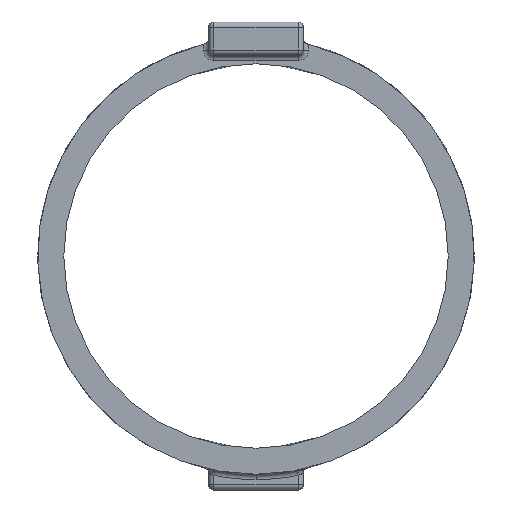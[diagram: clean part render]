
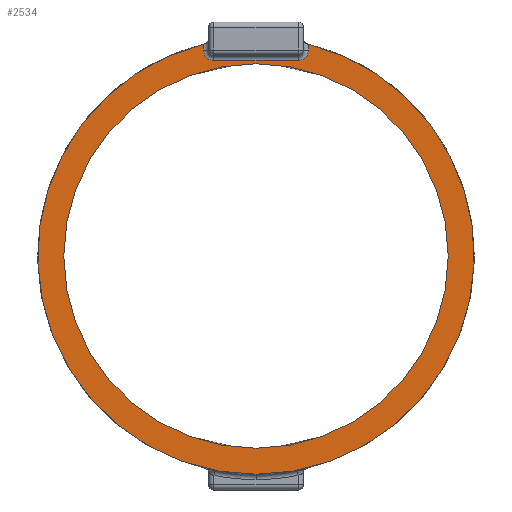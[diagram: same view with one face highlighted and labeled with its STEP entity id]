
A CAD part, front view. The second image highlights one B-rep face of the part: STEP entity #2534.
In plain terms, the highlighted planar face has unit normal (0, -1, 0).
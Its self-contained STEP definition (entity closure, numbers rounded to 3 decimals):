
#21 = DIRECTION ( 'NONE',  ( 0., 0., 1. ) ) ;
#32 = EDGE_CURVE ( 'NONE', #811, #158, #808, .T. ) ;
#59 = AXIS2_PLACEMENT_3D ( 'NONE', #739, #2432, #1389 ) ;
#98 = ORIENTED_EDGE ( 'NONE', *, *, #306, .T. ) ;
#126 = VERTEX_POINT ( 'NONE', #2557 ) ;
#158 = VERTEX_POINT ( 'NONE', #701 ) ;
#172 = VECTOR ( 'NONE', #414, 1000. ) ;
#232 = AXIS2_PLACEMENT_3D ( 'NONE', #462, #1285, #21 ) ;
#269 = CARTESIAN_POINT ( 'NONE',  ( 0., 0., 0. ) ) ;
#274 = VERTEX_POINT ( 'NONE', #1399 ) ;
#283 = FACE_BOUND ( 'NONE', #1904, .T. ) ;
#295 = DIRECTION ( 'NONE',  ( 0., -1., 0. ) ) ;
#306 = EDGE_CURVE ( 'NONE', #1874, #1296, #1870, .T. ) ;
#309 = FACE_OUTER_BOUND ( 'NONE', #512, .T. ) ;
#317 = CARTESIAN_POINT ( 'NONE',  ( 0., 0., 37.163 ) ) ;
#350 = VERTEX_POINT ( 'NONE', #623 ) ;
#358 = EDGE_CURVE ( 'NONE', #685, #1296, #474, .T. ) ;
#414 = DIRECTION ( 'NONE',  ( 0., 0., 1. ) ) ;
#450 = DIRECTION ( 'NONE',  ( 0., 0., -1. ) ) ;
#462 = CARTESIAN_POINT ( 'NONE',  ( 8., 0., 39.163 ) ) ;
#474 = CIRCLE ( 'NONE', #232, 2. ) ;
#483 = DIRECTION ( 'NONE',  ( 0., 0., 1. ) ) ;
#496 = CARTESIAN_POINT ( 'NONE',  ( 8., 0., 37.163 ) ) ;
#504 = ORIENTED_EDGE ( 'NONE', *, *, #953, .T. ) ;
#512 = EDGE_LOOP ( 'NONE', ( #1734, #98, #1604, #504, #1111, #540, #616 ) ) ;
#540 = ORIENTED_EDGE ( 'NONE', *, *, #32, .T. ) ;
#605 = DIRECTION ( 'NONE',  ( 0., 0., 1. ) ) ;
#616 = ORIENTED_EDGE ( 'NONE', *, *, #879, .F. ) ;
#623 = CARTESIAN_POINT ( 'NONE',  ( -8., 0., 37.163 ) ) ;
#685 = VERTEX_POINT ( 'NONE', #496 ) ;
#695 = ORIENTED_EDGE ( 'NONE', *, *, #2594, .F. ) ;
#701 = CARTESIAN_POINT ( 'NONE',  ( -10., 0., 40.277 ) ) ;
#705 = CARTESIAN_POINT ( 'NONE',  ( 0., 0., 36.55 ) ) ;
#739 = CARTESIAN_POINT ( 'NONE',  ( 0., 0., 0. ) ) ;
#780 = EDGE_CURVE ( 'NONE', #1950, #274, #2606, .T. ) ;
#808 = LINE ( 'NONE', #2283, #172 ) ;
#809 = DIRECTION ( 'NONE',  ( 0., 1., 0. ) ) ;
#811 = VERTEX_POINT ( 'NONE', #1577 ) ;
#879 = EDGE_CURVE ( 'NONE', #126, #158, #2044, .T. ) ;
#924 = PLANE ( 'NONE',  #2069 ) ;
#953 = EDGE_CURVE ( 'NONE', #685, #350, #1344, .T. ) ;
#1038 = CARTESIAN_POINT ( 'NONE',  ( 0., 0., 0. ) ) ;
#1089 = CIRCLE ( 'NONE', #1992, 41.5 ) ;
#1111 = ORIENTED_EDGE ( 'NONE', *, *, #2665, .F. ) ;
#1285 = DIRECTION ( 'NONE',  ( 0., -1., 0. ) ) ;
#1296 = VERTEX_POINT ( 'NONE', #2293 ) ;
#1297 = DIRECTION ( 'NONE',  ( 0., 1., 0. ) ) ;
#1298 = CARTESIAN_POINT ( 'NONE',  ( 10., 0., 0. ) ) ;
#1335 = CIRCLE ( 'NONE', #2373, 2. ) ;
#1344 = LINE ( 'NONE', #317, #2265 ) ;
#1348 = CARTESIAN_POINT ( 'NONE',  ( 0., 0., 0. ) ) ;
#1389 = DIRECTION ( 'NONE',  ( 0., 0., 1. ) ) ;
#1396 = VECTOR ( 'NONE', #450, 1000. ) ;
#1399 = CARTESIAN_POINT ( 'NONE',  ( 0., 0., -36.55 ) ) ;
#1435 = DIRECTION ( 'NONE',  ( 0., -1., 0. ) ) ;
#1508 = DIRECTION ( 'NONE',  ( 0., 0., 1. ) ) ;
#1517 = AXIS2_PLACEMENT_3D ( 'NONE', #1348, #2335, #483 ) ;
#1577 = CARTESIAN_POINT ( 'NONE',  ( -10., 0., 39.163 ) ) ;
#1598 = AXIS2_PLACEMENT_3D ( 'NONE', #2146, #295, #1905 ) ;
#1604 = ORIENTED_EDGE ( 'NONE', *, *, #358, .F. ) ;
#1734 = ORIENTED_EDGE ( 'NONE', *, *, #2027, .F. ) ;
#1792 = ORIENTED_EDGE ( 'NONE', *, *, #780, .F. ) ;
#1870 = LINE ( 'NONE', #1298, #1396 ) ;
#1874 = VERTEX_POINT ( 'NONE', #2389 ) ;
#1904 = EDGE_LOOP ( 'NONE', ( #695, #1792 ) ) ;
#1905 = DIRECTION ( 'NONE',  ( 0., 0., 1. ) ) ;
#1950 = VERTEX_POINT ( 'NONE', #705 ) ;
#1992 = AXIS2_PLACEMENT_3D ( 'NONE', #1038, #809, #605 ) ;
#2027 = EDGE_CURVE ( 'NONE', #1874, #126, #1089, .T. ) ;
#2044 = CIRCLE ( 'NONE', #59, 41.5 ) ;
#2069 = AXIS2_PLACEMENT_3D ( 'NONE', #269, #1297, #1508 ) ;
#2146 = CARTESIAN_POINT ( 'NONE',  ( 0., 0., 0. ) ) ;
#2153 = DIRECTION ( 'NONE',  ( -1., 0., 0. ) ) ;
#2265 = VECTOR ( 'NONE', #2153, 1000. ) ;
#2283 = CARTESIAN_POINT ( 'NONE',  ( -10., 0., 40.512 ) ) ;
#2293 = CARTESIAN_POINT ( 'NONE',  ( 10., 0., 39.163 ) ) ;
#2335 = DIRECTION ( 'NONE',  ( 0., -1., 0. ) ) ;
#2373 = AXIS2_PLACEMENT_3D ( 'NONE', #2671, #1435, #2658 ) ;
#2389 = CARTESIAN_POINT ( 'NONE',  ( 10., 0., 40.277 ) ) ;
#2415 = CIRCLE ( 'NONE', #1598, 36.55 ) ;
#2432 = DIRECTION ( 'NONE',  ( 0., 1., 0. ) ) ;
#2534 = ADVANCED_FACE ( 'NONE', ( #309, #283 ), #924, .F. ) ;
#2557 = CARTESIAN_POINT ( 'NONE',  ( 0., 0., -41.5 ) ) ;
#2594 = EDGE_CURVE ( 'NONE', #274, #1950, #2415, .T. ) ;
#2606 = CIRCLE ( 'NONE', #1517, 36.55 ) ;
#2658 = DIRECTION ( 'NONE',  ( 0., 0., 1. ) ) ;
#2665 = EDGE_CURVE ( 'NONE', #811, #350, #1335, .T. ) ;
#2671 = CARTESIAN_POINT ( 'NONE',  ( -8., 0., 39.163 ) ) ;
